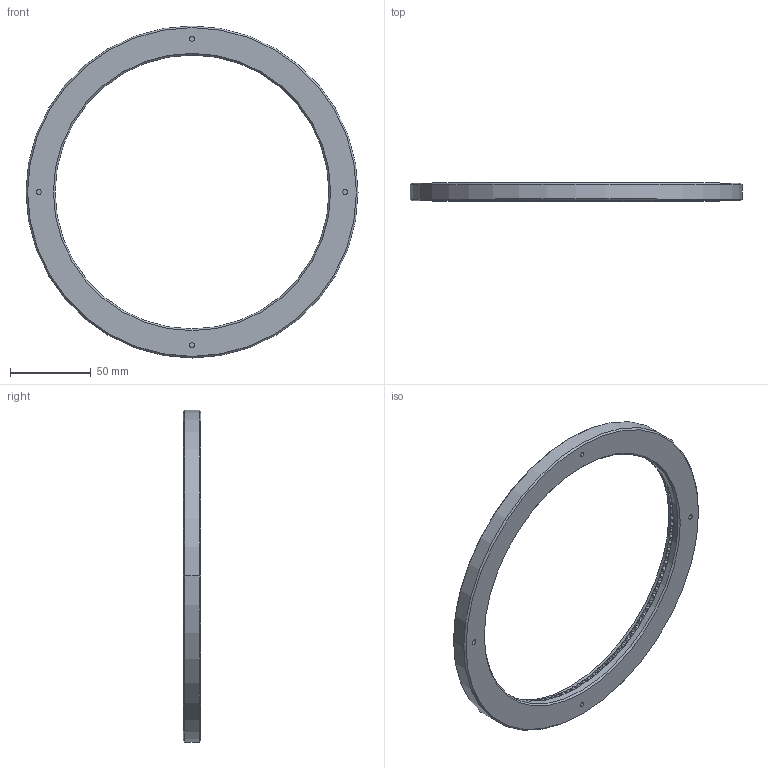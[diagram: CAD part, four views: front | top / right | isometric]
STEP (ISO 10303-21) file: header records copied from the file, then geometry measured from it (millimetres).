
FILE_DESCRIPTION((''),'2;1');
FILE_NAME('DRL-110-90_ASM','2020-03-28T',('ASUS'),(''),'PRO/ENGINEER BY PARAMETRIC TECHNOLOGY CORPORATION, 2008380','PRO/ENGINEER BY PARAMETRIC TECHNOLOGY CORPORATION, 2008380','');
FILE_SCHEMA(('CONFIG_CONTROL_DESIGN'));
Length unit declared in the file: millimetre
Products named in the file (3): DRL-110-90; 5__; DRL-110-90_ASM
Assembly tree (121 placements, depth 2):
  DRL-110-90_ASM
    DRL-110-90
    5__  x120
Bounding box: 206 x 11 x 206 mm (x, y, z)
Volume: 104933.4 mm3; surface area: 46221.2 mm2
Topology: 121 solids, 121 shells, 990 faces, 1980 edges, 1118 vertices
Faces by surface type: cylinder 496, plane 248, sphere 240, cone 6
Entity records: 2034 total; most frequent: DIRECTION 446, CARTESIAN_POINT 283, AXIS2_PLACEMENT_3D 210, ORIENTED_EDGE 148, PRODUCT_DEFINITION_SHAPE 124, ITEM_DEFINED_TRANSFORMATION 121, CONTEXT_DEPENDENT_SHAPE_REPRESENTATION 121, NEXT_ASSEMBLY_USAGE_OCCURRENCE 121
